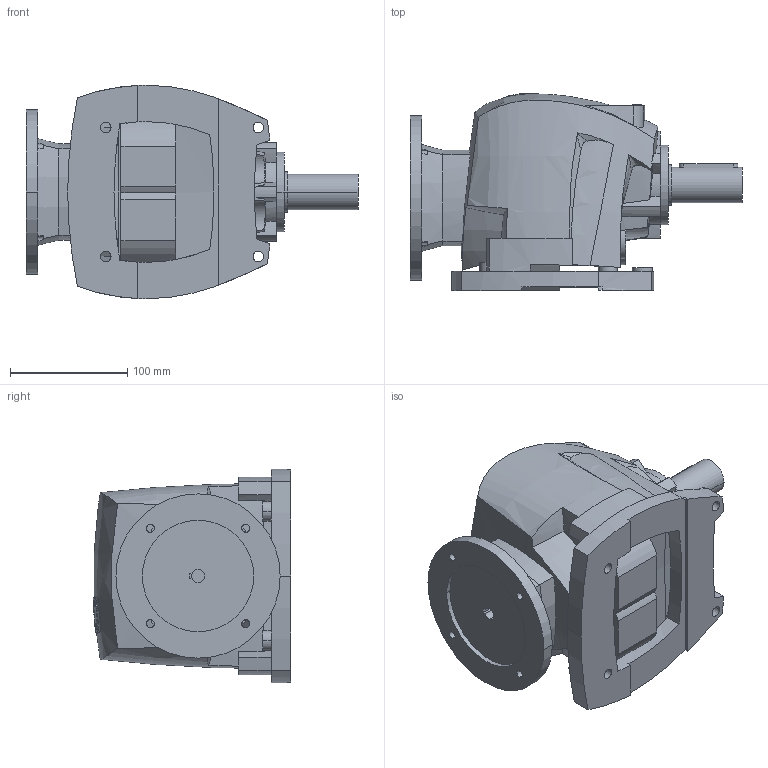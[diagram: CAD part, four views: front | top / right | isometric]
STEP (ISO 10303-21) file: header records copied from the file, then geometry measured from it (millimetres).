
FILE_DESCRIPTION((''),'2;1');
FILE_NAME('R25_SW_PAM63_D2','2013-12-15T',('Luca'),(''),'PRO/ENGINEER BY PARAMETRIC TECHNOLOGY CORPORATION, 2008230','PRO/ENGINEER BY PARAMETRIC TECHNOLOGY CORPORATION, 2008230','');
FILE_SCHEMA(('CONFIG_CONTROL_DESIGN'));
Length unit declared in the file: millimetre
Products named in the file (1): R25_SW_PAM63_D2
Bounding box: 283 x 168.3 x 182 mm (x, y, z)
Volume: 3632197.9 mm3; surface area: 225694.3 mm2
Topology: 1 solids, 5 shells, 434 faces, 1221 edges, 816 vertices
Faces by surface type: plane 159, cylinder 148, bspline 113, cone 8, torus 6
Entity records: 19937 total; most frequent: CARTESIAN_POINT 9500, ORIENTED_EDGE 2438, DIRECTION 1748, EDGE_CURVE 1219, VERTEX_POINT 816, AXIS2_PLACEMENT_3D 625, VECTOR 498, LINE 498
